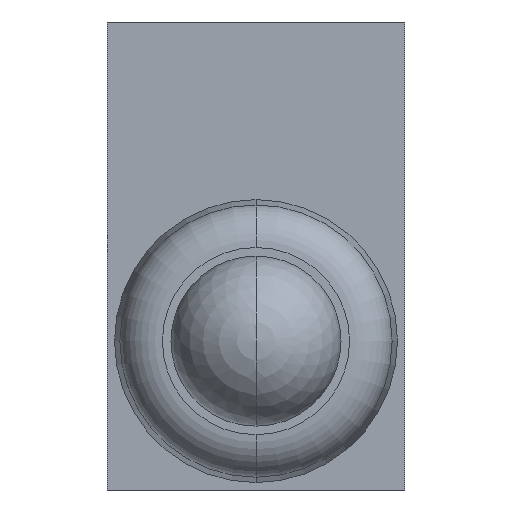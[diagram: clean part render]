
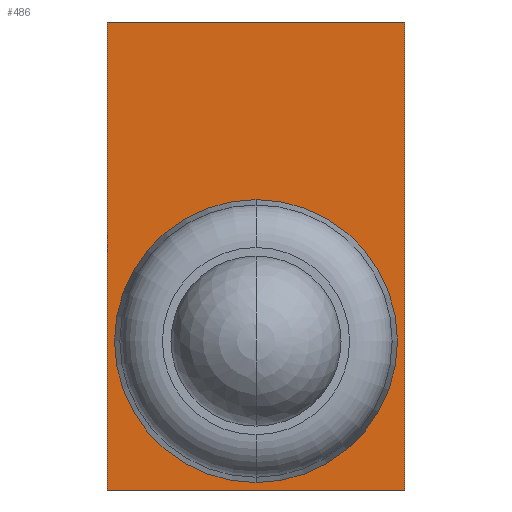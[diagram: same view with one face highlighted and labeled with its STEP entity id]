
A CAD part, left-side view. The second image highlights one B-rep face of the part: STEP entity #486.
In plain terms, the highlighted planar face has unit normal (-1, 0, 0).
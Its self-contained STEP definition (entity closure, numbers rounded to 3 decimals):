
#133=CARTESIAN_POINT('',(0.,0.,0.));
#134=DIRECTION('',(1.,0.,0.));
#135=DIRECTION('',(0.,0.,-1.));
#136=AXIS2_PLACEMENT_3D('',#133,#134,#135);
#138=DIRECTION('',(0.,-1.,0.));
#139=VECTOR('',#138,1.4);
#140=CARTESIAN_POINT('',(0.,0.7,1.5));
#141=LINE('',#140,#139);
#142=DIRECTION('',(0.,0.,-1.));
#143=VECTOR('',#142,2.2);
#144=CARTESIAN_POINT('',(0.,-0.7,1.5));
#145=LINE('',#144,#143);
#146=DIRECTION('',(0.,1.,0.));
#147=VECTOR('',#146,1.4);
#148=CARTESIAN_POINT('',(0.,-0.7,-0.7));
#149=LINE('',#148,#147);
#150=DIRECTION('',(0.,0.,1.));
#151=VECTOR('',#150,2.2);
#152=CARTESIAN_POINT('',(0.,0.7,-0.7));
#153=LINE('',#152,#151);
#186=CARTESIAN_POINT('',(0.,0.,0.));
#187=DIRECTION('',(1.,0.,0.));
#188=DIRECTION('',(0.,0.,1.));
#189=AXIS2_PLACEMENT_3D('',#186,#187,#188);
#233=CARTESIAN_POINT('',(0.,0.7,1.5));
#234=CARTESIAN_POINT('',(0.,-0.7,1.5));
#235=VERTEX_POINT('',#233);
#236=VERTEX_POINT('',#234);
#237=CARTESIAN_POINT('',(0.,-0.7,-0.7));
#238=VERTEX_POINT('',#237);
#239=CARTESIAN_POINT('',(0.,0.7,-0.7));
#240=VERTEX_POINT('',#239);
#249=CARTESIAN_POINT('',(0.,0.,-0.64));
#250=CARTESIAN_POINT('',(0.,0.,0.64));
#251=VERTEX_POINT('',#249);
#252=VERTEX_POINT('',#250);
#466=CARTESIAN_POINT('',(0.,0.,0.));
#467=DIRECTION('',(1.,0.,0.));
#468=DIRECTION('',(0.,-1.,0.));
#469=AXIS2_PLACEMENT_3D('',#466,#467,#468);
#470=PLANE('',#469);
#472=ORIENTED_EDGE('',*,*,#471,.T.);
#474=ORIENTED_EDGE('',*,*,#473,.T.);
#476=ORIENTED_EDGE('',*,*,#475,.T.);
#478=ORIENTED_EDGE('',*,*,#477,.T.);
#479=EDGE_LOOP('',(#472,#474,#476,#478));
#480=FACE_OUTER_BOUND('',#479,.F.);
#481=ORIENTED_EDGE('',*,*,#456,.F.);
#483=ORIENTED_EDGE('',*,*,#482,.F.);
#484=EDGE_LOOP('',(#481,#483));
#485=FACE_BOUND('',#484,.F.);
#486=ADVANCED_FACE('',(#480,#485),#470,.F.);
#137=CIRCLE('',#136,0.64);
#190=CIRCLE('',#189,0.64);
#456=EDGE_CURVE('',#251,#252,#137,.T.);
#471=EDGE_CURVE('',#235,#236,#141,.T.);
#473=EDGE_CURVE('',#236,#238,#145,.T.);
#475=EDGE_CURVE('',#238,#240,#149,.T.);
#477=EDGE_CURVE('',#240,#235,#153,.T.);
#482=EDGE_CURVE('',#252,#251,#190,.T.);
